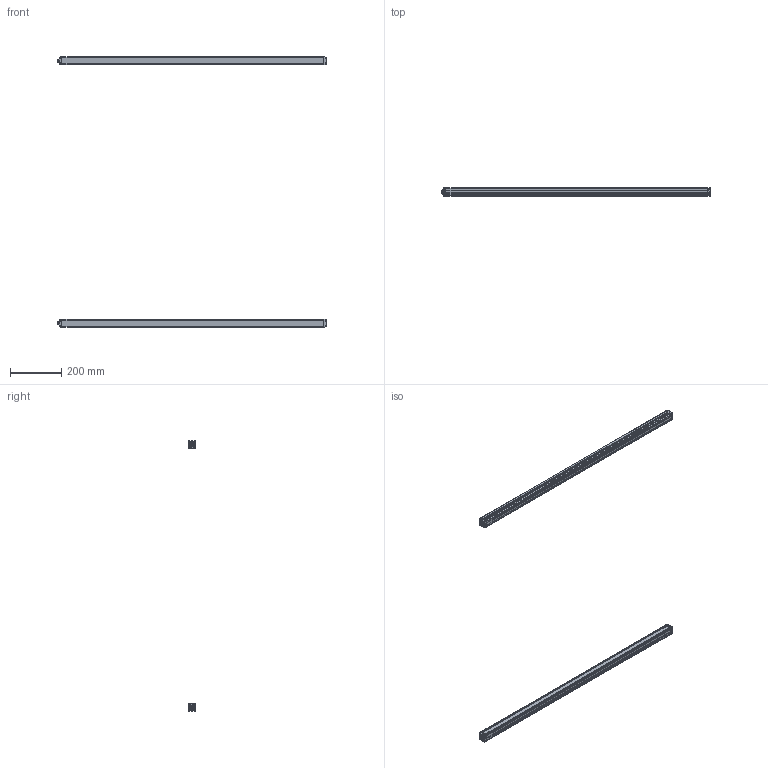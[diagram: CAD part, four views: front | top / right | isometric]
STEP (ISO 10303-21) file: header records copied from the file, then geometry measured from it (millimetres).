
FILE_DESCRIPTION(/* description */ (''),/* implementation_level */ '2;1');
FILE_NAME(/* name */ '0000.stp',/* time_stamp */ '2023-08-09T15:51:51+08:00',/* author */ (''),/* organization */ (''),/* preprocessor_version */ 'ST-DEVELOPER v16',/* originating_system */ 'SIEMENS PLM Software NX 11.0',/* authorisation */ '');
FILE_SCHEMA (('AP203_CONFIGURATION_CONTROLLED_3D_DESIGN_OF_MECHANICAL_PARTS_AND_ASSEMBLIES_MIM_LF { 1 0 10303 403 2 1 2}'));
Length unit declared in the file: millimetre
Products named in the file (10): 16; 14; 12; 13; 102; 101; 11; ASM0002_ASM; THS10-100; 0
Assembly tree (10 placements, depth 4):
  0
    THS10-100  x2
      11
      101
      102
      13
      12
      ASM0002_ASM
        14
        16
Bounding box: 1057 x 30.3 x 1058.6 mm (x, y, z)
Volume: 644784.7 mm3; surface area: 698942.2 mm2
Topology: 10 solids, 14 shells, 1080 faces, 3010 edges, 1986 vertices
Faces by surface type: plane 764, cylinder 288, cone 28
Entity records: 18610 total; most frequent: CARTESIAN_POINT 3167, ORIENTED_EDGE 3006, DIRECTION 2923, EDGE_CURVE 1505, LINE 1173, VECTOR 1173, VERTEX_POINT 993, AXIS2_PLACEMENT_3D 875
